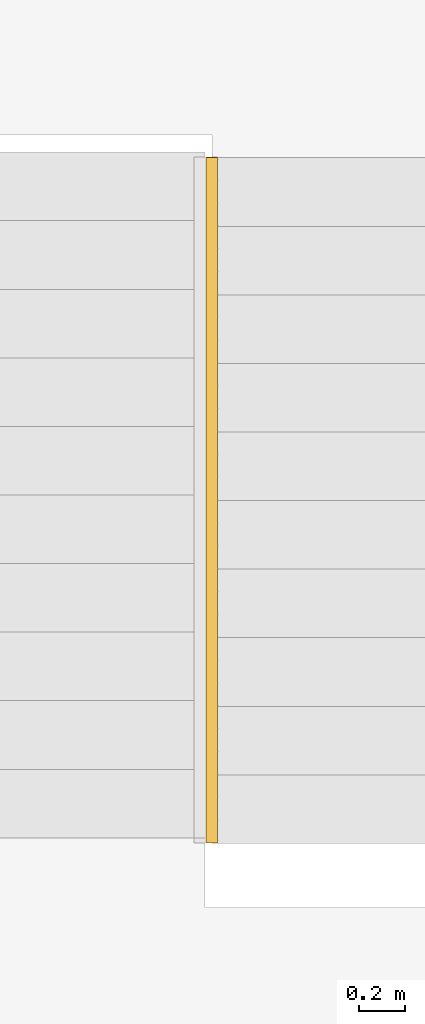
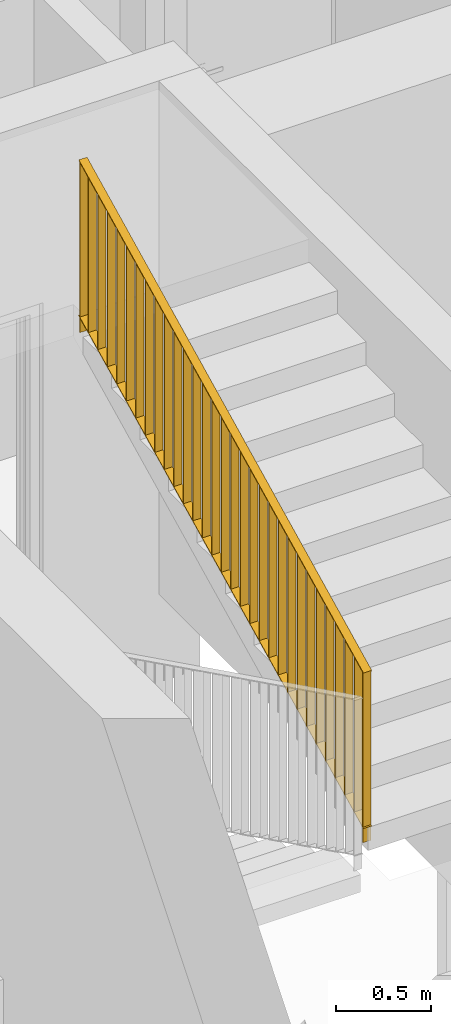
# One storey, part 25 of 46: 1 railing, 1 element without a shape of its own.
"""IFC2X3 building model written with IfcOpenShell, lengths in millimetres."""

from ifc_helpers import new_model, entity, si_unit, converted_unit, derived_unit, direction, frame, origin, place, context, subcontext, project, spatial, faceted_brep, material, element, aggregate, save


model = new_model("IFC2X3")

# Units and contexts
model_context = context("Model", 3, precision=0.01, world=origin(), true_north=direction((6.12303176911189e-17, 1.0)))
body_context = subcontext(model_context, "Body", "Model", "MODEL_VIEW")
ifc_project = project(units=[si_unit("LENGTHUNIT", "METRE", prefix="MILLI"), si_unit("AREAUNIT", "SQUARE_METRE"), si_unit("VOLUMEUNIT", "CUBIC_METRE"), converted_unit("PLANEANGLEUNIT", "DEGREE", entity("IfcRatioMeasure", 0.0174532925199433), si_unit("PLANEANGLEUNIT", "RADIAN"), dimensions=[0, 0, 0, 0, 0, 0, 0]), si_unit("MASSUNIT", "GRAM", prefix="KILO"), derived_unit("MASSDENSITYUNIT", [(si_unit("MASSUNIT", "GRAM", prefix="KILO"), 1), (si_unit("LENGTHUNIT", "METRE"), -3)]), si_unit("TIMEUNIT", "SECOND"), si_unit("FREQUENCYUNIT", "HERTZ"), si_unit("THERMODYNAMICTEMPERATUREUNIT", "DEGREE_CELSIUS"), derived_unit("THERMALTRANSMITTANCEUNIT", [(si_unit("MASSUNIT", "GRAM", prefix="KILO"), 1), (si_unit("THERMODYNAMICTEMPERATUREUNIT", "KELVIN"), -1), (si_unit("TIMEUNIT", "SECOND"), -3)]), derived_unit("VOLUMETRICFLOWRATEUNIT", [(si_unit("LENGTHUNIT", "METRE"), 3), (si_unit("TIMEUNIT", "SECOND"), -1)]), si_unit("ELECTRICCURRENTUNIT", "AMPERE"), si_unit("ELECTRICVOLTAGEUNIT", "VOLT"), si_unit("POWERUNIT", "WATT"), si_unit("FORCEUNIT", "NEWTON", prefix="KILO"), si_unit("ILLUMINANCEUNIT", "LUX"), si_unit("LUMINOUSFLUXUNIT", "LUMEN"), si_unit("LUMINOUSINTENSITYUNIT", "CANDELA"), derived_unit("USERDEFINED", [(si_unit("MASSUNIT", "GRAM", prefix="KILO"), -1), (si_unit("LENGTHUNIT", "METRE"), -2), (si_unit("TIMEUNIT", "SECOND"), 3), (si_unit("LUMINOUSFLUXUNIT", "LUMEN"), 1)]), derived_unit("LINEARVELOCITYUNIT", [(si_unit("LENGTHUNIT", "METRE"), 1), (si_unit("TIMEUNIT", "SECOND"), -1)]), si_unit("PRESSUREUNIT", "PASCAL"), derived_unit("USERDEFINED", [(si_unit("LENGTHUNIT", "METRE"), -2), (si_unit("MASSUNIT", "GRAM", prefix="KILO"), 1), (si_unit("TIMEUNIT", "SECOND"), -2)]), derived_unit("LINEARFORCEUNIT", [(si_unit("MASSUNIT", "GRAM", prefix="KILO"), 1), (si_unit("LENGTHUNIT", "METRE"), 1), (si_unit("TIMEUNIT", "SECOND"), -2), (si_unit("LENGTHUNIT", "METRE"), -1)]), derived_unit("PLANARFORCEUNIT", [(si_unit("MASSUNIT", "GRAM", prefix="KILO"), 1), (si_unit("LENGTHUNIT", "METRE"), 1), (si_unit("TIMEUNIT", "SECOND"), -2), (si_unit("LENGTHUNIT", "METRE"), -2)])], contexts=[model_context])

# Site, building, storey
site_placement = place(None, origin())
site = spatial("IfcSite", under=ifc_project, at=site_placement, Name="Default", CompositionType="ELEMENT")
building_placement = place(site_placement, origin())
building = spatial("IfcBuilding", under=site, at=building_placement, Name="SMA ARH", CompositionType="ELEMENT")
storey_placement = place(building_placement, origin())
storey = spatial("IfcBuildingStorey", under=building, at=storey_placement, Name="1 Korrus", CompositionType="ELEMENT", Elevation=0.0)

# Stair, railing
stair_placement = place(storey_placement, origin())
stair = element("IfcStair", 1, at=stair_placement, inside=storey, Name="Cast-In-Place Stair:Stair", ObjectType="Cast-In-Place Stair:Cast-In-Place Stair", ShapeType="STRAIGHT_RUN_STAIR")
ifc_material = material(Name="Metal - Stainless Steel,Polished")
railing_placement = place(stair_placement, frame((32209.5598309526, 1650.0, 1673.1212121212)))
railing = element("IfcRailing", 2, at=railing_placement, material=ifc_material, Name="Railing:1000mm_sisearh railing offsetiga", ObjectType="Railing:1000mm_sisearh railing offsetiga", PredefinedType="NOTDEFINED", context=body_context, shape_type="Brep", body=[
    faceted_brep([(50.4401690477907, 97.5000000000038, 144.454545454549), (50.4401690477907, 102.500000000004, 146.924242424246), (50.4401690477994, 102.500000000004, 1141.34755854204), (50.4401690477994, 97.5000000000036, 1138.87786157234), (0.440169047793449, 97.5000000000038, 144.454545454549), (0.440169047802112, 97.5000000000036, 1138.87786157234), (0.440169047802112, 102.500000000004, 1141.34755854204), (0.440169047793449, 102.500000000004, 146.924242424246)], [[[0, 1, 2, 3]], [[4, 5, 6, 7]], [[1, 0, 4, 7]], [[2, 1, 7, 6]], [[3, 2, 6, 5]], [[0, 3, 5, 4]]]),
    faceted_brep([(50.4401690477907, 197.500000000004, 193.848484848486), (50.4401690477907, 202.500000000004, 196.318181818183), (50.4401690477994, 202.500000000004, 1190.74149793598), (50.4401690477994, 197.500000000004, 1188.27180096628), (0.440169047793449, 197.500000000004, 193.848484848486), (0.440169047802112, 197.500000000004, 1188.27180096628), (0.440169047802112, 202.500000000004, 1190.74149793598), (0.440169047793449, 202.500000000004, 196.318181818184)], [[[0, 1, 2, 3]], [[4, 5, 6, 7]], [[1, 0, 4, 7]], [[2, 1, 7, 6]], [[3, 2, 6, 5]], [[0, 3, 5, 4]]]),
    faceted_brep([(50.4401690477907, 297.500000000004, 243.242424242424), (50.4401690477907, 302.500000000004, 245.712121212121), (50.4401690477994, 302.500000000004, 1240.13543732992), (50.4401690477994, 297.500000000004, 1237.66574036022), (0.440169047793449, 297.500000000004, 243.242424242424), (0.440169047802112, 297.500000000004, 1237.66574036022), (0.440169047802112, 302.500000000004, 1240.13543732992), (0.440169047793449, 302.500000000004, 245.712121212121)], [[[0, 1, 2, 3]], [[4, 5, 6, 7]], [[1, 0, 4, 7]], [[2, 1, 7, 6]], [[3, 2, 6, 5]], [[0, 3, 5, 4]]]),
    faceted_brep([(50.4401690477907, 397.500000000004, 292.636363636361), (50.4401690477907, 402.500000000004, 295.106060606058), (50.4401690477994, 402.500000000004, 1289.52937672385), (50.4401690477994, 397.500000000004, 1287.05967975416), (0.440169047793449, 397.500000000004, 292.636363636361), (0.440169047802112, 397.500000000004, 1287.05967975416), (0.440169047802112, 402.500000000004, 1289.52937672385), (0.440169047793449, 402.500000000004, 295.106060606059)], [[[0, 1, 2, 3]], [[4, 5, 6, 7]], [[1, 0, 4, 7]], [[2, 1, 7, 6]], [[3, 2, 6, 5]], [[0, 3, 5, 4]]]),
    faceted_brep([(50.4401690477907, 497.500000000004, 342.030303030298), (50.4401690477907, 502.500000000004, 344.499999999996), (50.4401690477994, 502.500000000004, 1338.92331611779), (50.4401690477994, 497.500000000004, 1336.45361914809), (0.440169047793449, 497.500000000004, 342.030303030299), (0.440169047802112, 497.500000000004, 1336.45361914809), (0.440169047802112, 502.500000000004, 1338.92331611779), (0.440169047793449, 502.500000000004, 344.499999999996)], [[[0, 1, 2, 3]], [[4, 5, 6, 7]], [[1, 0, 4, 7]], [[2, 1, 7, 6]], [[3, 2, 6, 5]], [[0, 3, 5, 4]]]),
    faceted_brep([(50.4401690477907, 597.500000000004, 391.424242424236), (50.4401690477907, 602.500000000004, 393.893939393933), (50.4401690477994, 602.500000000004, 1388.31725551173), (50.4401690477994, 597.500000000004, 1385.84755854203), (0.440169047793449, 597.500000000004, 391.424242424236), (0.440169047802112, 597.500000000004, 1385.84755854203), (0.440169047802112, 602.500000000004, 1388.31725551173), (0.440169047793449, 602.500000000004, 393.893939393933)], [[[0, 1, 2, 3]], [[4, 5, 6, 7]], [[1, 0, 4, 7]], [[2, 1, 7, 6]], [[3, 2, 6, 5]], [[0, 3, 5, 4]]]),
    faceted_brep([(50.4401690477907, 697.500000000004, 440.818181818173), (50.4401690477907, 702.500000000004, 443.28787878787), (50.4401690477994, 702.500000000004, 1437.71119490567), (50.4401690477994, 697.500000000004, 1435.24149793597), (0.440169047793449, 697.500000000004, 440.818181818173), (0.440169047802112, 697.500000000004, 1435.24149793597), (0.440169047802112, 702.500000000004, 1437.71119490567), (0.440169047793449, 702.500000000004, 443.287878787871)], [[[0, 1, 2, 3]], [[4, 5, 6, 7]], [[1, 0, 4, 7]], [[2, 1, 7, 6]], [[3, 2, 6, 5]], [[0, 3, 5, 4]]]),
    faceted_brep([(50.4401690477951, 797.500000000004, 490.21212121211), (50.4401690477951, 802.500000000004, 492.681818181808), (50.4401690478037, 802.500000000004, 1487.1051342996), (50.4401690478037, 797.500000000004, 1484.63543732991), (0.440169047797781, 797.500000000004, 490.212121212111), (0.440169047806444, 797.500000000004, 1484.63543732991), (0.440169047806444, 802.500000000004, 1487.1051342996), (0.440169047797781, 802.500000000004, 492.681818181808)], [[[0, 1, 2, 3]], [[4, 5, 6, 7]], [[1, 0, 4, 7]], [[2, 1, 7, 6]], [[3, 2, 6, 5]], [[0, 3, 5, 4]]]),
    faceted_brep([(50.4401690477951, 897.500000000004, 539.606060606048), (50.4401690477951, 902.500000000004, 542.075757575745), (50.4401690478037, 902.500000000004, 1536.49907369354), (50.4401690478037, 897.500000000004, 1534.02937672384), (0.440169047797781, 897.500000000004, 539.606060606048), (0.440169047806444, 897.500000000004, 1534.02937672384), (0.440169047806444, 902.500000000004, 1536.49907369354), (0.440169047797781, 902.500000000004, 542.075757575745)], [[[0, 1, 2, 3]], [[4, 5, 6, 7]], [[1, 0, 4, 7]], [[2, 1, 7, 6]], [[3, 2, 6, 5]], [[0, 3, 5, 4]]]),
    faceted_brep([(50.4401690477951, 997.500000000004, 589.0), (50.4401690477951, 1002.5, 591.469696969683), (50.4401690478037, 1002.5, 1585.89301308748), (50.4401690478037, 997.500000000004, 1583.42331611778), (0.440169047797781, 997.500000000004, 589.0), (0.440169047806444, 997.500000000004, 1583.42331611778), (0.440169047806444, 1002.5, 1585.89301308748), (0.440169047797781, 1002.5, 591.469696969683)], [[[0, 1, 2, 3]], [[4, 5, 6, 7]], [[1, 0, 4, 7]], [[2, 1, 7, 6]], [[3, 2, 6, 5]], [[0, 3, 5, 4]]]),
    faceted_brep([(50.4401690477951, 1097.5, 638.393939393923), (50.4401690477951, 1102.5, 640.86363636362), (50.4401690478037, 1102.5, 1635.28695248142), (50.4401690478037, 1097.5, 1632.81725551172), (0.440169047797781, 1097.5, 638.393939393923), (0.440169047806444, 1097.5, 1632.81725551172), (0.440169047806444, 1102.5, 1635.28695248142), (0.440169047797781, 1102.5, 640.86363636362)], [[[0, 1, 2, 3]], [[4, 5, 6, 7]], [[1, 0, 4, 7]], [[2, 1, 7, 6]], [[3, 2, 6, 5]], [[0, 3, 5, 4]]]),
    faceted_brep([(50.4401690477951, 1197.5, 687.78787878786), (50.4401690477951, 1202.5, 690.257575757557), (50.4401690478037, 1202.5, 1684.68089187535), (50.4401690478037, 1197.5, 1682.21119490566), (0.440169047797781, 1197.5, 687.78787878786), (0.440169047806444, 1197.5, 1682.21119490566), (0.440169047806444, 1202.5, 1684.68089187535), (0.440169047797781, 1202.5, 690.257575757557)], [[[0, 1, 2, 3]], [[4, 5, 6, 7]], [[1, 0, 4, 7]], [[2, 1, 7, 6]], [[3, 2, 6, 5]], [[0, 3, 5, 4]]]),
    faceted_brep([(50.4401690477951, 1297.5, 737.181818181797), (50.4401690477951, 1302.5, 739.651515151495), (50.4401690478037, 1302.5, 1734.07483126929), (50.4401690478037, 1297.5, 1731.60513429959), (0.440169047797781, 1297.5, 737.181818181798), (0.440169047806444, 1297.5, 1731.60513429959), (0.440169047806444, 1302.5, 1734.07483126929), (0.440169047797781, 1302.5, 739.651515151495)], [[[0, 1, 2, 3]], [[4, 5, 6, 7]], [[1, 0, 4, 7]], [[2, 1, 7, 6]], [[3, 2, 6, 5]], [[0, 3, 5, 4]]]),
    faceted_brep([(50.4401690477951, 1397.5, 786.575757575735), (50.4401690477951, 1402.5, 789.045454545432), (50.4401690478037, 1402.5, 1783.46877066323), (50.4401690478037, 1397.5, 1780.99907369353), (0.440169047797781, 1397.5, 786.575757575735), (0.440169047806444, 1397.5, 1780.99907369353), (0.440169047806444, 1402.5, 1783.46877066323), (0.440169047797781, 1402.5, 789.045454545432)], [[[0, 1, 2, 3]], [[4, 5, 6, 7]], [[1, 0, 4, 7]], [[2, 1, 7, 6]], [[3, 2, 6, 5]], [[0, 3, 5, 4]]]),
    faceted_brep([(50.4401690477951, 1497.5, 835.969696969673), (50.4401690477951, 1502.5, 838.43939393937), (50.4401690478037, 1502.5, 1832.86271005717), (50.4401690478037, 1497.5, 1830.39301308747), (0.440169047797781, 1497.5, 835.969696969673), (0.440169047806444, 1497.5, 1830.39301308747), (0.440169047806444, 1502.5, 1832.86271005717), (0.440169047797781, 1502.5, 838.43939393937)], [[[0, 1, 2, 3]], [[4, 5, 6, 7]], [[1, 0, 4, 7]], [[2, 1, 7, 6]], [[3, 2, 6, 5]], [[0, 3, 5, 4]]]),
    faceted_brep([(50.4401690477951, 1597.5, 885.36363636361), (50.4401690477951, 1602.5, 887.833333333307), (50.4401690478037, 1602.5, 1882.2566494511), (50.4401690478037, 1597.5, 1879.78695248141), (0.440169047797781, 1597.5, 885.36363636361), (0.440169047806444, 1597.5, 1879.78695248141), (0.440169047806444, 1602.5, 1882.2566494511), (0.440169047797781, 1602.5, 887.833333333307)], [[[0, 1, 2, 3]], [[4, 5, 6, 7]], [[1, 0, 4, 7]], [[2, 1, 7, 6]], [[3, 2, 6, 5]], [[0, 3, 5, 4]]]),
    faceted_brep([(50.4401690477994, 1697.5, 934.757575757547), (50.4401690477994, 1702.5, 937.227272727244), (50.4401690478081, 1702.5, 1931.65058884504), (50.4401690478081, 1697.5, 1929.18089187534), (0.440169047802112, 1697.5, 934.757575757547), (0.440169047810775, 1697.5, 1929.18089187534), (0.440169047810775, 1702.5, 1931.65058884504), (0.440169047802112, 1702.5, 937.227272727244)], [[[0, 1, 2, 3]], [[4, 5, 6, 7]], [[1, 0, 4, 7]], [[2, 1, 7, 6]], [[3, 2, 6, 5]], [[0, 3, 5, 4]]]),
    faceted_brep([(50.4401690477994, 1797.5, 984.151515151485), (50.4401690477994, 1802.5, 986.621212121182), (50.4401690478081, 1802.5, 1981.04452823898), (50.4401690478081, 1797.5, 1978.57483126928), (0.440169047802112, 1797.5, 984.151515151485), (0.440169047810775, 1797.5, 1978.57483126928), (0.440169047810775, 1802.5, 1981.04452823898), (0.440169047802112, 1802.5, 986.621212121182)], [[[0, 1, 2, 3]], [[4, 5, 6, 7]], [[1, 0, 4, 7]], [[2, 1, 7, 6]], [[3, 2, 6, 5]], [[0, 3, 5, 4]]]),
    faceted_brep([(50.4401690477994, 1897.5, 1033.54545454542), (50.4401690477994, 1902.5, 1036.01515151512), (50.4401690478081, 1902.5, 2030.43846763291), (50.4401690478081, 1897.5, 2027.96877066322), (0.440169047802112, 1897.5, 1033.54545454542), (0.440169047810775, 1897.5, 2027.96877066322), (0.440169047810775, 1902.5, 2030.43846763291), (0.440169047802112, 1902.5, 1036.01515151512)], [[[0, 1, 2, 3]], [[4, 5, 6, 7]], [[1, 0, 4, 7]], [[2, 1, 7, 6]], [[3, 2, 6, 5]], [[0, 3, 5, 4]]]),
    faceted_brep([(50.4401690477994, 1997.5, 1082.93939393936), (50.4401690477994, 2002.5, 1085.40909090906), (50.4401690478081, 2002.5, 2079.83240702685), (50.4401690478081, 1997.5, 2077.36271005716), (0.440169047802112, 1997.5, 1082.93939393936), (0.440169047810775, 1997.5, 2077.36271005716), (0.440169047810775, 2002.5, 2079.83240702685), (0.440169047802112, 2002.5, 1085.40909090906)], [[[0, 1, 2, 3]], [[4, 5, 6, 7]], [[1, 0, 4, 7]], [[2, 1, 7, 6]], [[3, 2, 6, 5]], [[0, 3, 5, 4]]]),
    faceted_brep([(50.4401690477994, 2097.5, 1132.3333333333), (50.4401690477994, 2102.5, 1134.80303030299), (50.4401690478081, 2102.5, 2129.22634642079), (50.4401690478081, 2097.5, 2126.75664945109), (0.440169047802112, 2097.5, 1132.3333333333), (0.440169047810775, 2097.5, 2126.75664945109), (0.440169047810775, 2102.5, 2129.22634642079), (0.440169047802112, 2102.5, 1134.80303030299)], [[[0, 1, 2, 3]], [[4, 5, 6, 7]], [[1, 0, 4, 7]], [[2, 1, 7, 6]], [[3, 2, 6, 5]], [[0, 3, 5, 4]]]),
    faceted_brep([(50.4401690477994, 2197.5, 1181.72727272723), (50.4401690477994, 2202.5, 1184.19696969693), (50.4401690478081, 2202.5, 2178.62028581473), (50.4401690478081, 2197.5, 2176.15058884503), (0.440169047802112, 2197.5, 1181.72727272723), (0.440169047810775, 2197.5, 2176.15058884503), (0.440169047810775, 2202.5, 2178.62028581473), (0.440169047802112, 2202.5, 1184.19696969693)], [[[0, 1, 2, 3]], [[4, 5, 6, 7]], [[1, 0, 4, 7]], [[2, 1, 7, 6]], [[3, 2, 6, 5]], [[0, 3, 5, 4]]]),
    faceted_brep([(50.4401690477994, 2297.5, 1231.12121212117), (50.4401690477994, 2302.5, 1233.59090909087), (50.4401690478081, 2302.5, 2228.01422520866), (50.4401690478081, 2297.5, 2225.54452823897), (0.440169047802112, 2297.5, 1231.12121212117), (0.440169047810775, 2297.5, 2225.54452823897), (0.440169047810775, 2302.5, 2228.01422520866), (0.440169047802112, 2302.5, 1233.59090909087)], [[[0, 1, 2, 3]], [[4, 5, 6, 7]], [[1, 0, 4, 7]], [[2, 1, 7, 6]], [[3, 2, 6, 5]], [[0, 3, 5, 4]]]),
    faceted_brep([(50.4401690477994, 2397.5, 1280.51515151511), (50.4401690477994, 2402.5, 1282.98484848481), (50.4401690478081, 2402.5, 2277.4081646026), (50.4401690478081, 2397.5, 2274.9384676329), (0.440169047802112, 2397.5, 1280.51515151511), (0.440169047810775, 2397.5, 2274.9384676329), (0.440169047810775, 2402.5, 2277.4081646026), (0.440169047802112, 2402.5, 1282.98484848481)], [[[0, 1, 2, 3]], [[4, 5, 6, 7]], [[1, 0, 4, 7]], [[2, 1, 7, 6]], [[3, 2, 6, 5]], [[0, 3, 5, 4]]]),
    faceted_brep([(50.4401690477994, 2497.5, 1329.90909090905), (50.4401690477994, 2502.5, 1332.37878787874), (50.4401690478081, 2502.5, 2326.80210399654), (50.4401690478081, 2497.5, 2324.33240702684), (0.440169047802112, 2497.5, 1329.90909090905), (0.440169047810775, 2497.5, 2324.33240702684), (0.440169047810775, 2502.5, 2326.80210399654), (0.440169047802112, 2502.5, 1332.37878787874)], [[[0, 1, 2, 3]], [[4, 5, 6, 7]], [[1, 0, 4, 7]], [[2, 1, 7, 6]], [[3, 2, 6, 5]], [[0, 3, 5, 4]]]),
    faceted_brep([(50.4401690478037, 2597.5, 1379.30303030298), (50.4401690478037, 2602.5, 1381.77272727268), (50.4401690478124, 2602.5, 2376.19604339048), (50.4401690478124, 2597.5, 2373.72634642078), (0.440169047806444, 2597.5, 1379.30303030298), (0.440169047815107, 2597.5, 2373.72634642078), (0.440169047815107, 2602.5, 2376.19604339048), (0.440169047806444, 2602.5, 1381.77272727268)], [[[0, 1, 2, 3]], [[4, 5, 6, 7]], [[1, 0, 4, 7]], [[2, 1, 7, 6]], [[3, 2, 6, 5]], [[0, 3, 5, 4]]]),
    faceted_brep([(50.4401690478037, 2697.5, 1428.69696969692), (50.4401690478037, 2702.5, 1431.16666666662), (50.4401690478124, 2702.5, 2425.58998278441), (50.4401690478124, 2697.5, 2423.12028581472), (0.440169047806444, 2697.5, 1428.69696969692), (0.440169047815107, 2697.5, 2423.12028581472), (0.440169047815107, 2702.5, 2425.58998278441), (0.440169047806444, 2702.5, 1431.16666666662)], [[[0, 1, 2, 3]], [[4, 5, 6, 7]], [[1, 0, 4, 7]], [[2, 1, 7, 6]], [[3, 2, 6, 5]], [[0, 3, 5, 4]]]),
    faceted_brep([(50.4401690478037, 2797.5, 1478.09090909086), (50.4401690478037, 2802.5, 1480.56060606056), (50.4401690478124, 2802.5, 2474.98392217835), (50.4401690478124, 2797.5, 2472.51422520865), (0.440169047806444, 2797.5, 1478.09090909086), (0.440169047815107, 2797.5, 2472.51422520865), (0.440169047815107, 2802.5, 2474.98392217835), (0.440169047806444, 2802.5, 1480.56060606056)], [[[0, 1, 2, 3]], [[4, 5, 6, 7]], [[1, 0, 4, 7]], [[2, 1, 7, 6]], [[3, 2, 6, 5]], [[0, 3, 5, 4]]]),
    faceted_brep([(50.4401690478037, 2897.5, 1527.4848484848), (50.4401690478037, 2902.5, 1529.95454545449), (50.4401690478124, 2902.5, 2524.37786157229), (50.4401690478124, 2897.5, 2521.90816460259), (0.440169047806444, 2897.5, 1527.4848484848), (0.440169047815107, 2897.5, 2521.90816460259), (0.440169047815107, 2902.5, 2524.37786157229), (0.440169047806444, 2902.5, 1529.95454545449)], [[[0, 1, 2, 3]], [[4, 5, 6, 7]], [[1, 0, 4, 7]], [[2, 1, 7, 6]], [[3, 2, 6, 5]], [[0, 3, 5, 4]]]),
    faceted_brep([(50.4401690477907, 7.49999999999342, 0.0), (50.4401690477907, 12.4999999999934, 2.46969696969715), (50.4401690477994, 12.4999999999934, 1096.89301308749), (50.4401690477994, 7.49999999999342, 1094.4233161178), (0.440169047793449, 7.49999999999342, 0.0), (0.440169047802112, 7.49999999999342, 1094.4233161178), (0.440169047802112, 12.4999999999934, 1096.89301308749), (0.440169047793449, 12.4999999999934, 2.46969696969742)], [[[0, 1, 2, 3]], [[4, 5, 6, 7]], [[1, 0, 4, 7]], [[2, 1, 7, 6]], [[3, 2, 6, 5]], [[0, 3, 5, 4]]]),
    faceted_brep([(50.4401690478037, 2987.5, 1471.93939393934), (50.4401690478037, 2992.5, 1474.40909090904), (50.4401690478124, 2992.5, 2568.83240702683), (50.4401690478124, 2987.5, 2566.36271005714), (0.440169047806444, 2987.5, 1471.93939393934), (0.440169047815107, 2987.5, 2566.36271005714), (0.440169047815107, 2992.5, 2568.83240702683), (0.440169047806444, 2992.5, 1474.40909090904)], [[[0, 1, 2, 3]], [[4, 5, 6, 7]], [[1, 0, 4, 7]], [[2, 1, 7, 6]], [[3, 2, 6, 5]], [[0, 3, 5, 4]]]),
    faceted_brep([(50.0, 3000.0, 1576.87878787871), (50.0, 3000.0, 1571.87878787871), (0.0, 3000.0, 1571.87878787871), (0.0, 3000.0, 1576.87878787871), (50.0, 0.0, 96.2954545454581), (0.0, 0.0, 96.2954545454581), (0.0, 0.0, 90.7187706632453), (50.0, 0.0, 90.7187706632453), (50.0, 2997.49999999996, 1576.87878787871), (50.0, 2998.66751951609, 1571.87878787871), (0.0, 2998.66751951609, 1571.87878787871), (0.0, 2997.49999999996, 1576.87878787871)], [[[0, 1, 2, 3]], [[4, 5, 6, 7]], [[1, 0, 8, 9]], [[2, 1, 9, 10]], [[3, 2, 10, 11]], [[0, 3, 11, 8]], [[9, 8, 4, 7]], [[10, 9, 7, 6]], [[11, 10, 6, 5]], [[8, 11, 5, 4]]]),
    faceted_brep([(50.0, 0.0, 1096.29545454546), (0.0, 0.0, 1096.29545454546), (0.0, 0.0, 1090.71877066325), (50.0, 0.0, 1090.71877066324), (50.0, 2997.49999999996, 2576.87878787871), (50.0, 2997.49999999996, 2571.3021039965), (0.0, 2997.49999999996, 2571.3021039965), (0.0, 2997.49999999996, 2576.87878787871)], [[[0, 1, 2, 3]], [[4, 5, 6, 7]], [[1, 0, 4, 7]], [[2, 1, 7, 6]], [[3, 2, 6, 5]], [[0, 3, 5, 4]]]),
])
aggregate(stair, [railing])

save(model, "model.ifc")
